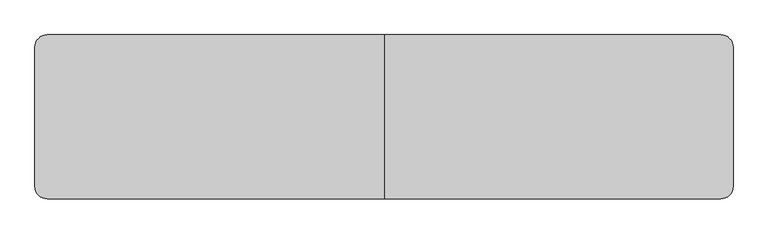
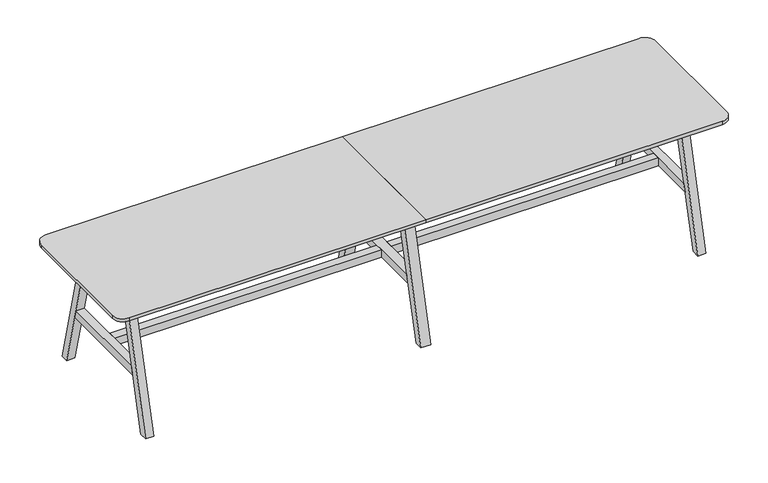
"""IFC4 building model written with IfcOpenShell, lengths in millimetres: furniture geometry, BDG_BossDesign_Tbls_AgentTables6Legs : AGE-DT-6L-3400-800-3D."""

from ifc_helpers import new_model, si_unit, point, frame, frame_2d, origin, place, context, project, spatial, polyline, circle_curve, trimmed, segment, composite_curve, outline, extrude, source, transform, mapped, element, save


def furniture_c619acf8(model_context):
    return source(origin(), model_context, "Body", "SweptSolid", [
        extrude(outline(polyline([(400.0, 0.0), (354.9999949, 0.0), (185.5, 660.0), (230.5000051, 660.0), (400.0, 0.0)])), frame((-27.5, 0.0, 0.0), z_axis=(1.0, 0.0, 0.0), x_axis=(0.0, 1.0, 0.0)), (0.0, 0.0, 1.0), 55.0),
        extrude(outline(polyline([(-400.0, 0.0), (-230.5000051, 660.0), (-185.5, 660.0), (-354.9999949, 0.0), (-400.0, 0.0)])), frame((-27.5, 0.0, 0.0), z_axis=(1.0, 0.0, 0.0), x_axis=(0.0, 1.0, 0.0)), (0.0, 0.0, 1.0), 55.0),
        extrude(outline(polyline([(277.9545427, 300.0), (-277.9545427, 300.0), (-266.3977249, 345.0), (266.3977249, 345.0), (277.9545427, 300.0)])), frame((-27.5, 0.0, 0.0), z_axis=(1.0, 0.0, 0.0), x_axis=(0.0, 1.0, 0.0)), (0.0, 0.0, 1.0), 55.0),
        extrude(outline(composite_curve([segment(polyline([(0.0, 400.0), (0.0, -400.0), (-1640.0, -400.0)]), True, "CONTINUOUS"), segment(trimmed(circle_curve(frame_2d((-1640.0, -340.0)), 60.0), [point((-1640.0, -400.0))], [point((-1700.0, -340.0))], False, "CARTESIAN"), True, "CONTINUOUS"), segment(polyline([(-1700.0, -340.0), (-1700.0, 340.0)]), True, "CONTINUOUS"), segment(trimmed(circle_curve(frame_2d((-1640.0, 340.0)), 60.0), [point((-1700.0, 340.0))], [point((-1640.0, 400.0))], False, "CARTESIAN"), True, "CONTINUOUS"), segment(polyline([(-1640.0, 400.0), (0.0, 400.0)]), True, "CONTINUOUS")], self_intersect=False)), frame((0.0, 0.0, 722.0), z_axis=(0.0, 0.0, 1.0), x_axis=(1.0, 0.0, 0.0)), (0.0, 0.0, 1.0), 18.0),
        extrude(outline(polyline([(-266.3977249, 345.0), (266.3977249, 345.0), (277.9545427, 300.0), (-277.9545427, 300.0), (-266.3977249, 345.0)])), frame((1505.0, 0.0, 0.0), z_axis=(1.0, 0.0, 0.0), x_axis=(0.0, 1.0, 0.0)), (0.0, 0.0, 1.0), 45.0),
        extrude(outline(polyline([(400.0, 0.0), (354.9999949, 0.0), (185.5, 660.0), (230.5000051, 660.0), (400.0, 0.0)])), frame((-1550.0, 0.0, 0.0), z_axis=(1.0, 0.0, 0.0), x_axis=(0.0, 1.0, 0.0)), (0.0, 0.0, 1.0), 45.0),
        extrude(outline(polyline([(-400.0, 0.0), (-230.5000051, 660.0), (-185.5, 660.0), (-354.9999949, 0.0), (-400.0, 0.0)])), frame((-1550.0, 0.0, 0.0), z_axis=(1.0, 0.0, 0.0), x_axis=(0.0, 1.0, 0.0)), (0.0, 0.0, 1.0), 45.0),
        extrude(outline(polyline([(-266.3977249, 345.0), (266.3977249, 345.0), (277.9545427, 300.0), (-277.9545427, 300.0), (-266.3977249, 345.0)])), frame((-1550.0, 0.0, 0.0), z_axis=(1.0, 0.0, 0.0), x_axis=(0.0, 1.0, 0.0)), (0.0, 0.0, 1.0), 45.0),
        extrude(outline(polyline([(-226.6006165, 634.973938), (-204.2770691, 722.0), (-179.5, 722.0), (-201.8235474, 634.973938), (-226.6006165, 634.973938)])), frame((-1505.0, 0.0, 0.0), z_axis=(1.0, 0.0, 0.0), x_axis=(0.0, 1.0, 0.0)), (0.0, 0.0, 1.0), 3010.0),
        extrude(outline(polyline([(226.6006165, 634.973938), (201.8235474, 634.973938), (179.5, 722.0), (204.2770691, 722.0), (226.6006165, 634.973938)])), frame((-1505.0, 0.0, 0.0), z_axis=(1.0, 0.0, 0.0), x_axis=(0.0, 1.0, 0.0)), (0.0, 0.0, 1.0), 3010.0),
        extrude(outline(polyline([(399.7999878, 0.0), (354.7999827, 0.0), (185.5, 660.0), (230.5000051, 660.0), (399.7999878, 0.0)])), frame((1505.0, 0.0, 0.0), z_axis=(1.0, 0.0, 0.0), x_axis=(0.0, 1.0, 0.0)), (0.0, 0.0, 1.0), 45.0),
        extrude(outline(polyline([(-399.7999878, 0.0), (-230.5000051, 660.0), (-185.5, 660.0), (-354.7999827, 0.0), (-399.7999878, 0.0)])), frame((1505.0, 0.0, 0.0), z_axis=(1.0, 0.0, 0.0), x_axis=(0.0, 1.0, 0.0)), (0.0, 0.0, 1.0), 45.0),
        extrude(outline(polyline([(-27.5, 22.5000305), (-27.5, -22.5000305), (-1505.0, -22.5000305), (-1505.0, 22.5000305), (-27.5, 22.5000305)])), frame((0.0, 0.0, 300.0), z_axis=(0.0, 0.0, 1.0), x_axis=(1.0, 0.0, 0.0)), (0.0, 0.0, 1.0), 45.0),
        extrude(outline(polyline([(27.5, -22.5000305), (27.5, 22.5000305), (1505.0, 22.5000305), (1505.0, -22.5000305), (27.5, -22.5000305)])), frame((0.0, 0.0, 300.0), z_axis=(0.0, 0.0, 1.0), x_axis=(1.0, 0.0, 0.0)), (0.0, 0.0, 1.0), 45.0),
        extrude(outline(composite_curve([segment(trimmed(circle_curve(frame_2d((1640.0, 340.0)), 60.0), [point((1640.0, 400.0))], [point((1700.0, 340.0))], False, "CARTESIAN"), True, "CONTINUOUS"), segment(polyline([(1700.0, 340.0), (1700.0, -340.0)]), True, "CONTINUOUS"), segment(trimmed(circle_curve(frame_2d((1640.0, -340.0)), 60.0), [point((1700.0, -340.0))], [point((1640.0, -400.0))], False, "CARTESIAN"), True, "CONTINUOUS"), segment(polyline([(1640.0, -400.0), (0.0, -400.0), (0.0, 400.0), (1640.0, 400.0)]), True, "CONTINUOUS")], self_intersect=False)), frame((0.0, 0.0, 722.0), z_axis=(0.0, 0.0, 1.0), x_axis=(1.0, 0.0, 0.0)), (0.0, 0.0, 1.0), 18.0),
    ])


if __name__ == "__main__":
    model = new_model("IFC4")
    model_context = context("Model", 3, world=origin())
    ifc_project = project(units=[si_unit("LENGTHUNIT", "METRE", prefix="MILLI")], contexts=[model_context])
    site = spatial("IfcSite", under=ifc_project)
    building = spatial("IfcBuilding", under=site)
    placement = place(None, origin())
    furniture_shape = furniture_c619acf8(model_context)
    element("IfcFurniture", 1, ObjectType="BDG_BossDesign_Tbls_AgentTables6Legs : AGE-DT-6L-3400-800-3D", at=placement, inside=building, context=model_context, shape_type="MappedRepresentation", body=[
        mapped(furniture_shape, transform((0.0, 0.0, 0.0), x_axis=(1.0, 0.0, 0.0), y_axis=(0.0, 1.0, 0.0), z_axis=(0.0, 0.0, 1.0))),
    ])
    save(model, "model.ifc")
